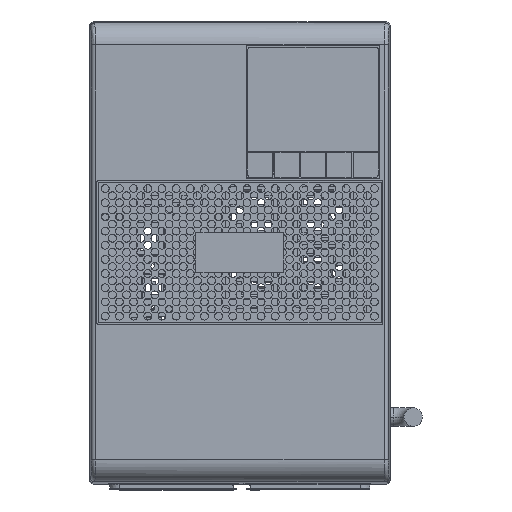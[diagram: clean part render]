
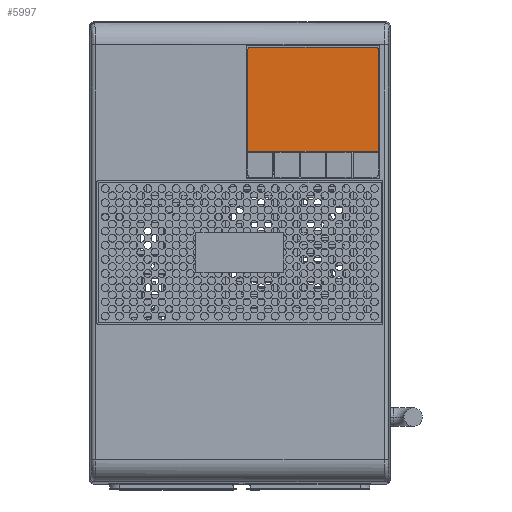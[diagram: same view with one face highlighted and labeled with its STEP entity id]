
A CAD part, top view. The second image highlights one B-rep face of the part: STEP entity #5997.
In plain terms, the highlighted planar face has unit normal (0, 0, 1).
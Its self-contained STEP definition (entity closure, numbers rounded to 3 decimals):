
#5934=CARTESIAN_POINT('',(4.026,101.474,0.));
#5935=CARTESIAN_POINT('',(4.026,101.557,0.));
#5936=CARTESIAN_POINT('',(4.046,101.704,0.));
#5937=CARTESIAN_POINT('',(4.132,101.952,0.));
#5938=CARTESIAN_POINT('',(4.305,102.195,0.));
#5939=CARTESIAN_POINT('',(4.548,102.368,0.));
#5940=CARTESIAN_POINT('',(4.796,102.454,0.));
#5941=CARTESIAN_POINT('',(4.943,102.474,0.));
#5942=CARTESIAN_POINT('',(5.026,102.474,0.));
#5944=DIRECTION('',(1.,0.,0.));
#5945=VECTOR('',#5944,62.948);
#5946=CARTESIAN_POINT('',(5.026,102.474,0.));
#5947=LINE('',#5946,#5945);
#5948=CARTESIAN_POINT('',(67.974,102.474,0.));
#5949=CARTESIAN_POINT('',(68.057,102.474,0.));
#5950=CARTESIAN_POINT('',(68.204,102.454,0.));
#5951=CARTESIAN_POINT('',(68.452,102.368,0.));
#5952=CARTESIAN_POINT('',(68.695,102.195,0.));
#5953=CARTESIAN_POINT('',(68.868,101.952,0.));
#5954=CARTESIAN_POINT('',(68.954,101.704,0.));
#5955=CARTESIAN_POINT('',(68.974,101.557,0.));
#5956=CARTESIAN_POINT('',(68.974,101.474,0.));
#5958=DIRECTION('',(0.,-1.,0.));
#5959=VECTOR('',#5958,50.961);
#5960=CARTESIAN_POINT('',(68.974,101.474,0.));
#5961=LINE('',#5960,#5959);
#5962=DIRECTION('',(-1.,0.,0.));
#5963=VECTOR('',#5962,64.948);
#5964=CARTESIAN_POINT('',(68.974,50.513,0.));
#5965=LINE('',#5964,#5963);
#5966=DIRECTION('',(0.,1.,0.));
#5967=VECTOR('',#5966,50.961);
#5968=CARTESIAN_POINT('',(4.026,50.513,0.));
#5969=LINE('',#5968,#5967);
#5970=CARTESIAN_POINT('',(4.026,50.513,0.));
#5971=CARTESIAN_POINT('',(68.974,50.513,0.));
#5972=VERTEX_POINT('',#5970);
#5973=VERTEX_POINT('',#5971);
#5974=VERTEX_POINT('',#5942);
#5975=VERTEX_POINT('',#5934);
#5976=VERTEX_POINT('',#5956);
#5977=VERTEX_POINT('',#5948);
#5978=CARTESIAN_POINT('',(36.5,70.,0.));
#5979=DIRECTION('',(0.,0.,1.));
#5980=DIRECTION('',(1.,0.,0.));
#5981=AXIS2_PLACEMENT_3D('',#5978,#5979,#5980);
#5982=PLANE('',#5981);
#5984=ORIENTED_EDGE('',*,*,#5983,.T.);
#5986=ORIENTED_EDGE('',*,*,#5985,.T.);
#5988=ORIENTED_EDGE('',*,*,#5987,.T.);
#5990=ORIENTED_EDGE('',*,*,#5989,.T.);
#5992=ORIENTED_EDGE('',*,*,#5991,.T.);
#5994=ORIENTED_EDGE('',*,*,#5993,.T.);
#5995=EDGE_LOOP('',(#5984,#5986,#5988,#5990,#5992,#5994));
#5996=FACE_OUTER_BOUND('',#5995,.F.);
#5997=ADVANCED_FACE('',(#5996),#5982,.T.);
#5943=B_SPLINE_CURVE_WITH_KNOTS('',3,(#5934,#5935,#5936,#5937,#5938,#5939,#5940,
#5941,#5942),.UNSPECIFIED.,.F.,.F.,(4,1,1,1,1,1,4),(0.,0.125,0.25,0.5,
0.75,0.875,1.),.UNSPECIFIED.);
#5957=B_SPLINE_CURVE_WITH_KNOTS('',3,(#5948,#5949,#5950,#5951,#5952,#5953,#5954,
#5955,#5956),.UNSPECIFIED.,.F.,.F.,(4,1,1,1,1,1,4),(0.,0.125,0.25,0.5,
0.75,0.875,1.),.UNSPECIFIED.);
#5983=EDGE_CURVE('',#5975,#5974,#5943,.T.);
#5985=EDGE_CURVE('',#5974,#5977,#5947,.T.);
#5987=EDGE_CURVE('',#5977,#5976,#5957,.T.);
#5989=EDGE_CURVE('',#5976,#5973,#5961,.T.);
#5991=EDGE_CURVE('',#5973,#5972,#5965,.T.);
#5993=EDGE_CURVE('',#5972,#5975,#5969,.T.);
